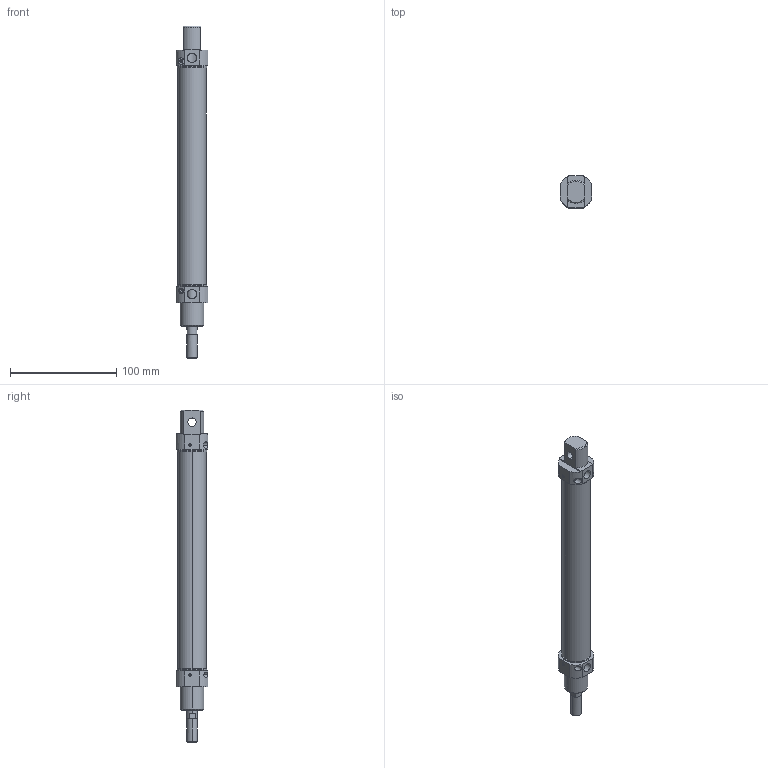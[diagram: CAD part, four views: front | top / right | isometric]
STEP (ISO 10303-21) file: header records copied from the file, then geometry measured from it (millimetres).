
FILE_DESCRIPTION (( 'STEP AP214' ), '1' );
FILE_NAME ('RMAY_25_175_WEB.STEP', '2021-05-06T16:07:36', ( '' ), ( '' ), 'SwSTEP 2.0', 'SolidWorks 2021', '' );
FILE_SCHEMA (( 'AUTOMOTIVE_DESIGN' ));
Length unit declared in the file: millimetre
Products named in the file (9): yastýk_vidasý; KASTAS-K52-10X16_2X4_5-6; 25_100_boru; 1012_PAPYUZUK; RMAY_25_arkakapak; socket set screw cone point_am_B18.3.6M - M3 x 0.5 x 2.5 Hex Socket Cone Pt. SS --N; RMAY_25_100_mil_WEB; RMAY_25_onkapak; RMAY_25_175_WEB
Assembly tree (10 placements, depth 2):
  RMAY_25_175_WEB
    25_100_boru
    RMAY_25_onkapak
    KASTAS-K52-10X16_2X4_5-6
    1012_PAPYUZUK
    RMAY_25_arkakapak
    RMAY_25_100_mil_WEB
    yastýk_vidasý  x2
    socket set screw cone point_am_B18.3.6M - M3 x 0.5 x 2.5 Hex Socket Cone Pt. SS --N  x2
Bounding box: 30 x 30 x 312 mm (x, y, z)
Volume: 59263.6 mm3; surface area: 54630.8 mm2
Topology: 10 solids, 10 shells, 470 faces, 1172 edges, 752 vertices
Faces by surface type: plane 175, cylinder 150, bspline 89, cone 54, torus 2
Entity records: 19815 total; most frequent: CARTESIAN_POINT 7751, ORIENTED_EDGE 2140, DIRECTION 1870, EDGE_CURVE 1070, AXIS2_PLACEMENT_3D 687, VERTEX_POINT 687, LINE 496, VECTOR 496
